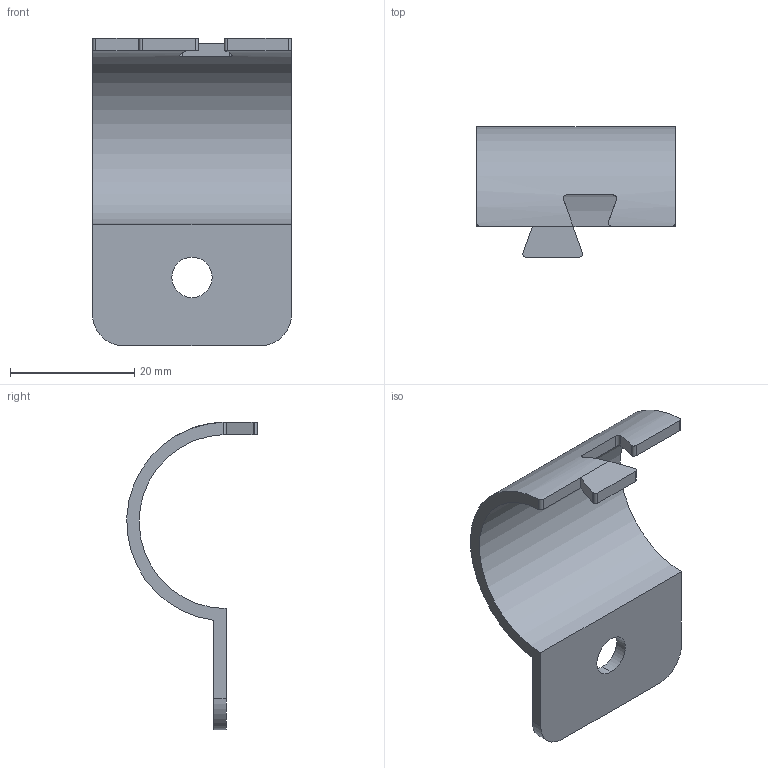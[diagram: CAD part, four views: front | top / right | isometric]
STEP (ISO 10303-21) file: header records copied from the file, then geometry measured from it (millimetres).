
FILE_DESCRIPTION (( 'STEP AP203' ), '1' );
FILE_NAME ('015.100.015B.STEP', '2016-10-24T07:37:57', ( '' ), ( '' ), 'SwSTEP 2.0', 'SolidWorks 2016', '' );
FILE_SCHEMA (( 'CONFIG_CONTROL_DESIGN' ));
Length unit declared in the file: millimetre
Products named in the file (1): 015.100.015B
Bounding box: 32 x 20.98 x 49.5 mm (x, y, z)
Volume: 4058.8 mm3; surface area: 4531.2 mm2
Topology: 1 solids, 1 shells, 29 faces, 79 edges, 52 vertices
Faces by surface type: cylinder 15, plane 14
Entity records: 1030 total; most frequent: CARTESIAN_POINT 231, ORIENTED_EDGE 158, DIRECTION 141, EDGE_CURVE 79, VERTEX_POINT 52, AXIS2_PLACEMENT_3D 48, LINE 45, VECTOR 45
